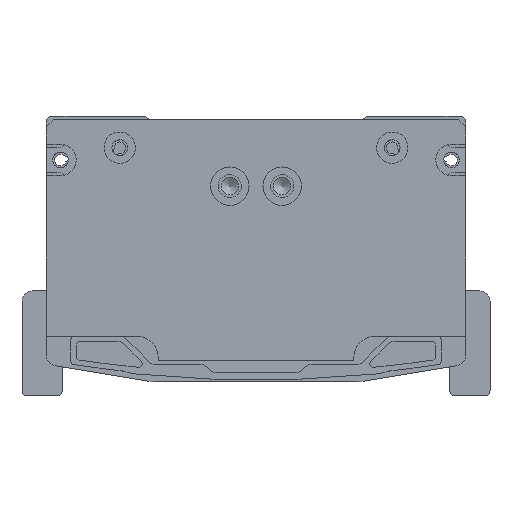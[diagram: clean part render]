
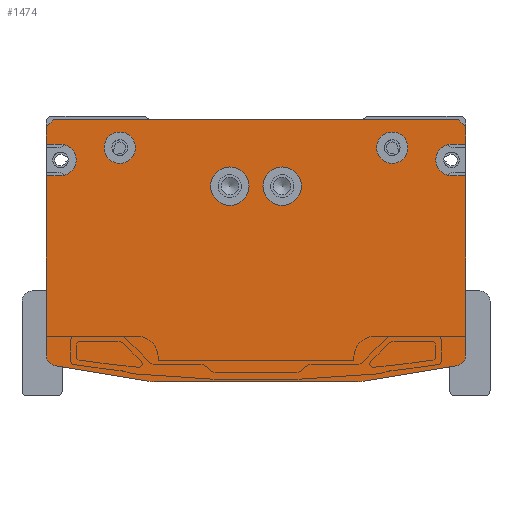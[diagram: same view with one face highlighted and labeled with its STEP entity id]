
A CAD part, front view. The second image highlights one B-rep face of the part: STEP entity #1474.
In plain terms, the highlighted planar face has unit normal (0, -1, 0).
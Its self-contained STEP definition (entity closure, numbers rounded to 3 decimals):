
#1474=ADVANCED_FACE('',(#4500,#4501,#4502,#4503,#4504),#2049,.F.);
#2049=PLANE('',#14675);
#2444=LINE('',#20720,#3448);
#2448=LINE('',#20728,#3452);
#2579=LINE('',#21432,#3583);
#2606=LINE('',#21486,#3610);
#2610=LINE('',#21494,#3614);
#2784=LINE('',#22681,#3788);
#2786=LINE('',#22684,#3790);
#2790=LINE('',#22691,#3794);
#2793=LINE('',#22700,#3797);
#2806=LINE('',#22735,#3810);
#2811=LINE('',#22749,#3815);
#2815=LINE('',#22761,#3819);
#2837=LINE('',#22823,#3841);
#2840=LINE('',#22832,#3844);
#3448=VECTOR('',#16170,1.);
#3452=VECTOR('',#16174,1.);
#3583=VECTOR('',#16611,1.);
#3610=VECTOR('',#16652,1.);
#3614=VECTOR('',#16656,1.);
#3788=VECTOR('',#17464,1.);
#3790=VECTOR('',#17468,1.);
#3794=VECTOR('',#17474,1.);
#3797=VECTOR('',#17485,1.);
#3810=VECTOR('',#17518,1.);
#3815=VECTOR('',#17531,1.);
#3819=VECTOR('',#17543,1.);
#3841=VECTOR('',#17619,1.);
#3844=VECTOR('',#17630,1.);
#4500=FACE_BOUND('',#5473,.T.);
#4501=FACE_BOUND('',#5474,.T.);
#4502=FACE_BOUND('',#5475,.T.);
#4503=FACE_BOUND('',#5476,.T.);
#4504=FACE_BOUND('',#5477,.T.);
#5473=EDGE_LOOP('',(#8001));
#5474=EDGE_LOOP('',(#8002));
#5475=EDGE_LOOP('',(#8003,#8004,#8005,#8006,#8007,#8008,#8009,#8010,#8011,
#8012,#8013,#8014,#8015,#8016,#8017,#8018,#8019,#8020,#8021,#8022));
#5476=EDGE_LOOP('',(#8023));
#5477=EDGE_LOOP('',(#8024));
#8001=ORIENTED_EDGE('',*,*,#12233,.T.);
#8002=ORIENTED_EDGE('',*,*,#12237,.T.);
#8003=ORIENTED_EDGE('',*,*,#12298,.T.);
#8004=ORIENTED_EDGE('',*,*,#12294,.F.);
#8005=ORIENTED_EDGE('',*,*,#12292,.F.);
#8006=ORIENTED_EDGE('',*,*,#12289,.F.);
#8007=ORIENTED_EDGE('',*,*,#12285,.T.);
#8008=ORIENTED_EDGE('',*,*,#12282,.T.);
#8009=ORIENTED_EDGE('',*,*,#11927,.F.);
#8010=ORIENTED_EDGE('',*,*,#12268,.T.);
#8011=ORIENTED_EDGE('',*,*,#12265,.T.);
#8012=ORIENTED_EDGE('',*,*,#12263,.F.);
#8013=ORIENTED_EDGE('',*,*,#11923,.F.);
#8014=ORIENTED_EDGE('',*,*,#12259,.T.);
#8015=ORIENTED_EDGE('',*,*,#11896,.F.);
#8016=ORIENTED_EDGE('',*,*,#12257,.T.);
#8017=ORIENTED_EDGE('',*,*,#11668,.F.);
#8018=ORIENTED_EDGE('',*,*,#12333,.T.);
#8019=ORIENTED_EDGE('',*,*,#12330,.T.);
#8020=ORIENTED_EDGE('',*,*,#12328,.F.);
#8021=ORIENTED_EDGE('',*,*,#11664,.F.);
#8022=ORIENTED_EDGE('',*,*,#12301,.T.);
#8023=ORIENTED_EDGE('',*,*,#12244,.F.);
#8024=ORIENTED_EDGE('',*,*,#12240,.F.);
#10227=VERTEX_POINT('',#20719);
#10228=VERTEX_POINT('',#20721);
#10231=VERTEX_POINT('',#20727);
#10232=VERTEX_POINT('',#20729);
#10353=VERTEX_POINT('',#21431);
#10354=VERTEX_POINT('',#21433);
#10373=VERTEX_POINT('',#21485);
#10374=VERTEX_POINT('',#21487);
#10377=VERTEX_POINT('',#21493);
#10378=VERTEX_POINT('',#21495);
#10593=VERTEX_POINT('',#22624);
#10597=VERTEX_POINT('',#22635);
#10600=VERTEX_POINT('',#22644);
#10603=VERTEX_POINT('',#22654);
#10611=VERTEX_POINT('',#22689);
#10613=VERTEX_POINT('',#22696);
#10624=VERTEX_POINT('',#22730);
#10626=VERTEX_POINT('',#22736);
#10629=VERTEX_POINT('',#22744);
#10631=VERTEX_POINT('',#22750);
#10632=VERTEX_POINT('',#22754);
#10635=VERTEX_POINT('',#22762);
#10647=VERTEX_POINT('',#22821);
#10649=VERTEX_POINT('',#22828);
#11664=EDGE_CURVE('',#10227,#10228,#2444,.T.);
#11668=EDGE_CURVE('',#10231,#10232,#2448,.T.);
#11896=EDGE_CURVE('',#10353,#10354,#2579,.T.);
#11923=EDGE_CURVE('',#10373,#10374,#2606,.T.);
#11927=EDGE_CURVE('',#10377,#10378,#2610,.T.);
#12233=EDGE_CURVE('',#10593,#10593,#13472,.T.);
#12237=EDGE_CURVE('',#10597,#10597,#13476,.T.);
#12240=EDGE_CURVE('',#10600,#10600,#13479,.T.);
#12244=EDGE_CURVE('',#10603,#10603,#13483,.T.);
#12257=EDGE_CURVE('',#10353,#10232,#2784,.T.);
#12259=EDGE_CURVE('',#10373,#10354,#2786,.T.);
#12263=EDGE_CURVE('',#10374,#10611,#2790,.T.);
#12265=EDGE_CURVE('',#10613,#10611,#13490,.T.);
#12268=EDGE_CURVE('',#10377,#10613,#2793,.T.);
#12282=EDGE_CURVE('',#10624,#10378,#13493,.T.);
#12285=EDGE_CURVE('',#10626,#10624,#2806,.T.);
#12289=EDGE_CURVE('',#10626,#10629,#13496,.T.);
#12292=EDGE_CURVE('',#10629,#10631,#2811,.T.);
#12294=EDGE_CURVE('',#10631,#10632,#13497,.T.);
#12298=EDGE_CURVE('',#10635,#10632,#2815,.T.);
#12301=EDGE_CURVE('',#10227,#10635,#13500,.T.);
#12328=EDGE_CURVE('',#10228,#10647,#2837,.T.);
#12330=EDGE_CURVE('',#10649,#10647,#13508,.T.);
#12333=EDGE_CURVE('',#10231,#10649,#2840,.T.);
#13472=CIRCLE('',#14576,5.5);
#13476=CIRCLE('',#14583,5.5);
#13479=CIRCLE('',#14589,4.5);
#13483=CIRCLE('',#14596,4.5);
#13490=CIRCLE('',#14614,4.5);
#13493=CIRCLE('',#14623,3.);
#13496=CIRCLE('',#14628,10.);
#13497=CIRCLE('',#14631,10.);
#13500=CIRCLE('',#14636,3.);
#13508=CIRCLE('',#14663,4.5);
#14576=AXIS2_PLACEMENT_3D('',#22623,#17389,#17390);
#14583=AXIS2_PLACEMENT_3D('',#22634,#17403,#17404);
#14589=AXIS2_PLACEMENT_3D('',#22643,#17415,#17416);
#14596=AXIS2_PLACEMENT_3D('',#22653,#17429,#17430);
#14614=AXIS2_PLACEMENT_3D('',#22695,#17479,#17480);
#14623=AXIS2_PLACEMENT_3D('',#22729,#17511,#17512);
#14628=AXIS2_PLACEMENT_3D('',#22743,#17525,#17526);
#14631=AXIS2_PLACEMENT_3D('',#22753,#17535,#17536);
#14636=AXIS2_PLACEMENT_3D('',#22766,#17549,#17550);
#14663=AXIS2_PLACEMENT_3D('',#22827,#17624,#17625);
#14675=AXIS2_PLACEMENT_3D('',#22849,#17655,#17656);
#16170=DIRECTION('',(0.,0.,1.));
#16174=DIRECTION('',(0.,0.,1.));
#16611=DIRECTION('',(1.,0.,0.));
#16652=DIRECTION('',(0.,0.,-1.));
#16656=DIRECTION('',(0.,0.,-1.));
#17389=DIRECTION('',(0.,1.,0.));
#17390=DIRECTION('',(1.,0.,0.));
#17403=DIRECTION('',(0.,1.,0.));
#17404=DIRECTION('',(1.,0.,0.));
#17415=DIRECTION('',(0.,-1.,0.));
#17416=DIRECTION('',(1.,0.,0.));
#17429=DIRECTION('',(0.,-1.,0.));
#17430=DIRECTION('',(1.,0.,0.));
#17464=DIRECTION('',(-0.707,0.,-0.707));
#17468=DIRECTION('',(-0.707,0.,0.707));
#17474=DIRECTION('',(-1.,0.,0.));
#17479=DIRECTION('',(0.,1.,0.));
#17480=DIRECTION('',(0.,0.,-1.));
#17485=DIRECTION('',(-1.,0.,0.));
#17511=DIRECTION('',(0.,-1.,0.));
#17512=DIRECTION('',(0.164,0.,-0.986));
#17518=DIRECTION('',(0.986,0.,0.164));
#17525=DIRECTION('',(0.,1.,0.));
#17526=DIRECTION('',(0.164,0.,-0.986));
#17531=DIRECTION('',(-1.,0.,0.));
#17535=DIRECTION('',(0.,1.,0.));
#17536=DIRECTION('',(0.,0.,-1.));
#17543=DIRECTION('',(0.986,0.,-0.164));
#17549=DIRECTION('',(0.,-1.,0.));
#17550=DIRECTION('',(-1.,0.,0.));
#17619=DIRECTION('',(1.,0.,0.));
#17624=DIRECTION('',(0.,1.,0.));
#17625=DIRECTION('',(0.,0.,1.));
#17630=DIRECTION('',(1.,0.,0.));
#17655=DIRECTION('',(0.,1.,0.));
#17656=DIRECTION('',(1.,0.,0.));
#20719=CARTESIAN_POINT('',(-60.,-412.,-69.459));
#20720=CARTESIAN_POINT('',(-60.,-412.,-69.459));
#20721=CARTESIAN_POINT('',(-60.,-412.,-18.));
#20727=CARTESIAN_POINT('',(-60.,-412.,-9.));
#20728=CARTESIAN_POINT('',(-60.,-412.,-9.));
#20729=CARTESIAN_POINT('',(-60.,-412.,-4.));
#21431=CARTESIAN_POINT('',(-58.,-412.,-2.));
#21432=CARTESIAN_POINT('',(-58.,-412.,-2.));
#21433=CARTESIAN_POINT('',(58.,-412.,-2.));
#21485=CARTESIAN_POINT('',(60.,-412.,-4.));
#21486=CARTESIAN_POINT('',(60.,-412.,-4.));
#21487=CARTESIAN_POINT('',(60.,-412.,-9.));
#21493=CARTESIAN_POINT('',(60.,-412.,-18.));
#21494=CARTESIAN_POINT('',(60.,-412.,-18.));
#21495=CARTESIAN_POINT('',(60.,-412.,-69.459));
#22623=CARTESIAN_POINT('',(7.5,-412.,-21.));
#22624=CARTESIAN_POINT('',(13.,-412.,-21.));
#22634=CARTESIAN_POINT('',(-7.5,-412.,-21.));
#22635=CARTESIAN_POINT('',(-2.,-412.,-21.));
#22643=CARTESIAN_POINT('',(-39.,-412.,-10.));
#22644=CARTESIAN_POINT('',(-34.5,-412.,-10.));
#22653=CARTESIAN_POINT('',(39.,-412.,-10.));
#22654=CARTESIAN_POINT('',(43.5,-412.,-10.));
#22681=CARTESIAN_POINT('',(-58.,-412.,-2.));
#22684=CARTESIAN_POINT('',(60.,-412.,-4.));
#22689=CARTESIAN_POINT('',(56.,-412.,-9.));
#22691=CARTESIAN_POINT('',(60.,-412.,-9.));
#22695=CARTESIAN_POINT('',(56.,-412.,-13.5));
#22696=CARTESIAN_POINT('',(56.,-412.,-18.));
#22700=CARTESIAN_POINT('',(60.,-412.,-18.));
#22729=CARTESIAN_POINT('',(57.,-412.,-69.459));
#22730=CARTESIAN_POINT('',(57.493,-412.,-72.418));
#22735=CARTESIAN_POINT('',(30.816,-412.,-76.864));
#22736=CARTESIAN_POINT('',(30.816,-412.,-76.864));
#22743=CARTESIAN_POINT('',(29.172,-412.,-67.));
#22744=CARTESIAN_POINT('',(29.172,-412.,-77.));
#22749=CARTESIAN_POINT('',(29.172,-412.,-77.));
#22750=CARTESIAN_POINT('',(-29.172,-412.,-77.));
#22753=CARTESIAN_POINT('',(-29.172,-412.,-67.));
#22754=CARTESIAN_POINT('',(-30.816,-412.,-76.864));
#22761=CARTESIAN_POINT('',(-57.493,-412.,-72.418));
#22762=CARTESIAN_POINT('',(-57.493,-412.,-72.418));
#22766=CARTESIAN_POINT('',(-57.,-412.,-69.459));
#22821=CARTESIAN_POINT('',(-56.,-412.,-18.));
#22823=CARTESIAN_POINT('',(-60.,-412.,-18.));
#22827=CARTESIAN_POINT('',(-56.,-412.,-13.5));
#22828=CARTESIAN_POINT('',(-56.,-412.,-9.));
#22832=CARTESIAN_POINT('',(-60.,-412.,-9.));
#22849=CARTESIAN_POINT('',(0.,-412.,-2.));
